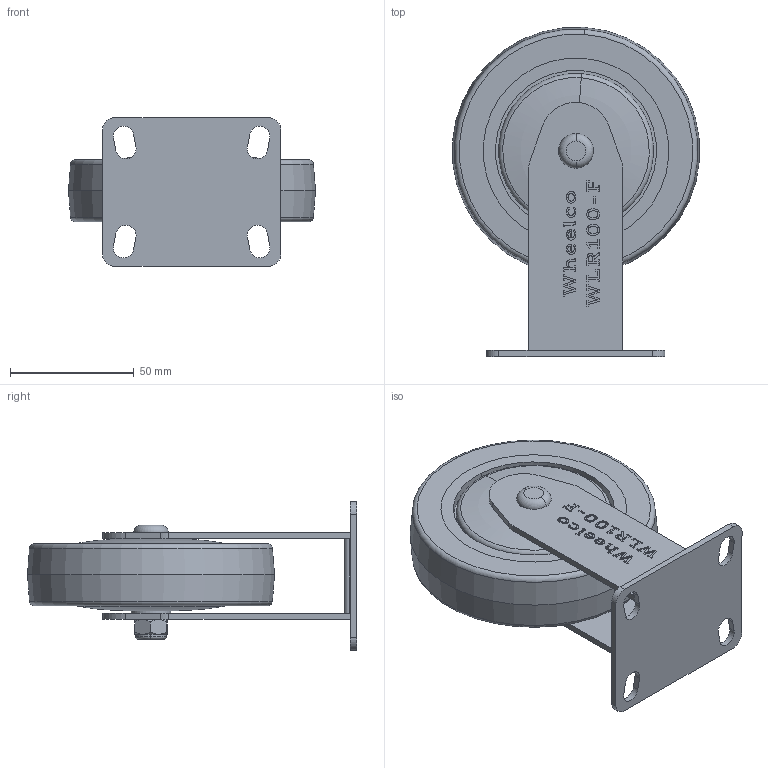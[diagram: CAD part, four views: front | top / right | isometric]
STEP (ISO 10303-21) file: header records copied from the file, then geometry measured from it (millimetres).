
FILE_DESCRIPTION (( 'STEP AP214' ), '1' );
FILE_NAME ('WLR100-F.step', '2024-01-15T01:46:15', ( '' ), ( '' ), 'SwSTEP 2.0', 'SolidWorks 2022', '' );
FILE_SCHEMA (( 'AUTOMOTIVE_DESIGN' ));
Length unit declared in the file: millimetre
Products named in the file (5): WL100-F; WLR100-F; WL bolt 50mm-8mm dia; M8Nyloc-WHITE; WLR100
Assembly tree (4 placements, depth 2):
  WLR100-F
    WL100-F
    WL bolt 50mm-8mm dia
    M8Nyloc-WHITE
    WLR100
Bounding box: 99.74 x 132.87 x 60 mm (x, y, z)
Volume: 229132.6 mm3; surface area: 52431.1 mm2
Topology: 4 solids, 4 shells, 469 faces, 1261 edges, 829 vertices
Faces by surface type: plane 244, cylinder 99, bspline 90, cone 18, torus 16, sphere 2
Entity records: 22720 total; most frequent: CARTESIAN_POINT 11144, ORIENTED_EDGE 2518, DIRECTION 1934, EDGE_CURVE 1259, VERTEX_POINT 829, LINE 808, VECTOR 808, AXIS2_PLACEMENT_3D 563
